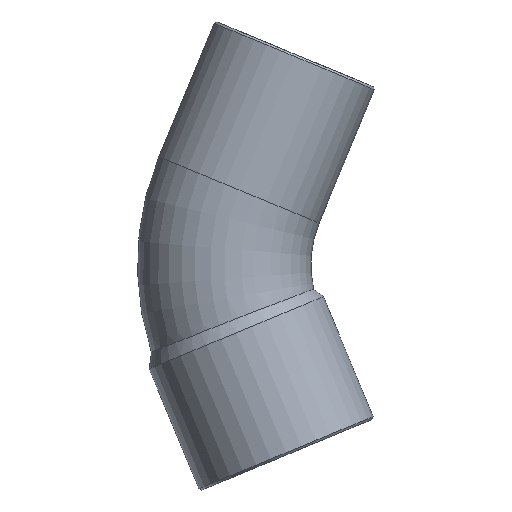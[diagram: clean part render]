
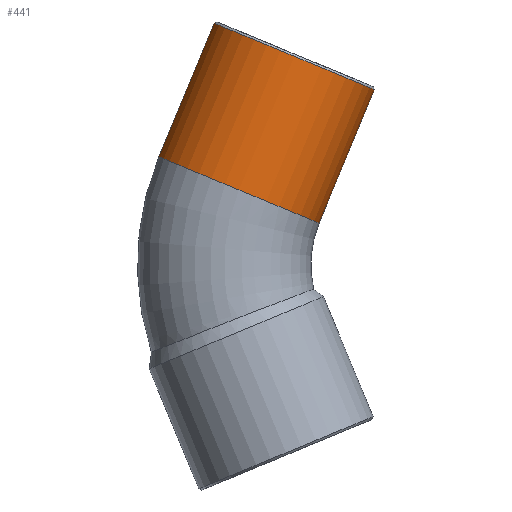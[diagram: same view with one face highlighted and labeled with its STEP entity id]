
A CAD part, front view. The second image highlights one B-rep face of the part: STEP entity #441.
In plain terms, the highlighted cylindrical face has radius 8 mm (diameter 16 mm), a partial arc.
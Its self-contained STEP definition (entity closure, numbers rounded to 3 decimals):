
#51=CARTESIAN_POINT('',(-19.586,0.,9.95));
#52=VERTEX_POINT('',#51);
#85=CARTESIAN_POINT('',(-4.804,0.,3.827));
#86=VERTEX_POINT('',#85);
#94=CARTESIAN_POINT('',(-12.195,0.,6.888));
#95=DIRECTION('',(-0.383,0.,-0.924));
#96=DIRECTION('',(-0.924,0.,0.383));
#97=AXIS2_PLACEMENT_3D('',#94,#95,#96);
#98=CIRCLE('',#97,8.0);
#99=EDGE_CURVE('',#86,#52,#98,.T.);
#410=CARTESIAN_POINT('',(-12.195,0.,6.888));
#411=DIRECTION('',(0.383,0.,0.924));
#412=DIRECTION('',(-0.924,0.,0.383));
#413=AXIS2_PLACEMENT_3D('',#410,#411,#412);
#414=CYLINDRICAL_SURFACE('',#413,8.);
#415=CARTESIAN_POINT('',(-14.479,0.,22.278));
#416=VERTEX_POINT('',#415);
#417=CARTESIAN_POINT('',(-19.586,0.,9.95));
#418=DIRECTION('',(0.383,0.,0.924));
#419=VECTOR('',#418,13.344);
#420=LINE('',#417,#419);
#421=EDGE_CURVE('',#52,#416,#420,.T.);
#422=ORIENTED_EDGE('',*,*,#421,.F.);
#423=ORIENTED_EDGE('',*,*,#99,.F.);
#424=CARTESIAN_POINT('',(0.303,0.,16.155));
#425=VERTEX_POINT('',#424);
#426=CARTESIAN_POINT('',(0.303,0.,16.155));
#427=DIRECTION('',(-0.383,0.,-0.924));
#428=VECTOR('',#427,13.344);
#429=LINE('',#426,#428);
#430=EDGE_CURVE('',#425,#86,#429,.T.);
#431=ORIENTED_EDGE('',*,*,#430,.F.);
#432=CARTESIAN_POINT('',(-7.088,0.,19.217));
#433=DIRECTION('',(0.383,0.,0.924));
#434=DIRECTION('',(-0.924,0.,0.383));
#435=AXIS2_PLACEMENT_3D('',#432,#433,#434);
#436=CIRCLE('',#435,8.);
#437=EDGE_CURVE('',#416,#425,#436,.T.);
#438=ORIENTED_EDGE('',*,*,#437,.F.);
#439=EDGE_LOOP('',(#422,#423,#431,#438));
#440=FACE_OUTER_BOUND('',#439,.T.);
#441=ADVANCED_FACE('',(#440),#414,.T.);
